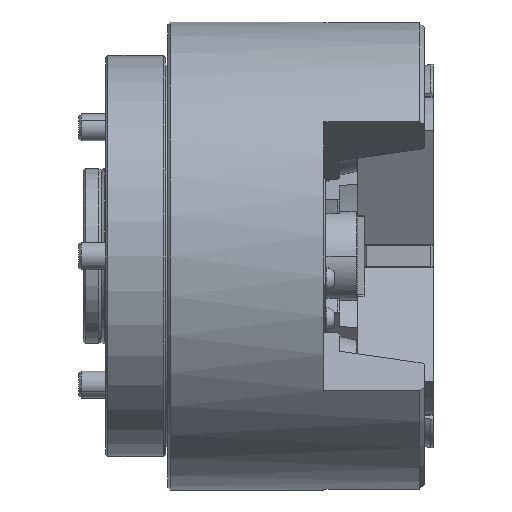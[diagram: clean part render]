
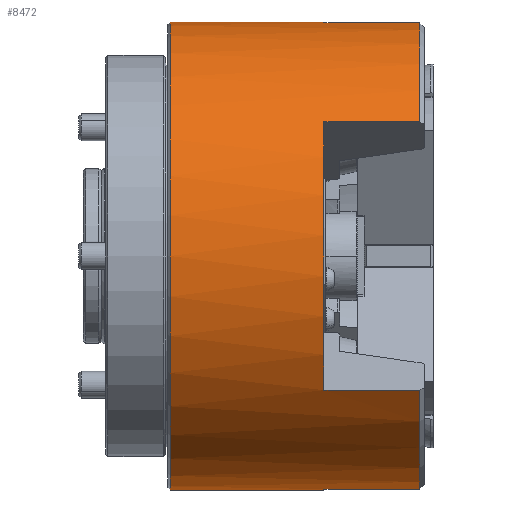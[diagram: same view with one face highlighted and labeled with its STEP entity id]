
A CAD part, front view. The second image highlights one B-rep face of the part: STEP entity #8472.
In plain terms, the highlighted cylindrical face has radius 105 mm (diameter 210 mm), a partial arc.
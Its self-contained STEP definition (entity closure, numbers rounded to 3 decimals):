
#387 = VERTEX_POINT ( 'NONE', #2884 ) ;
#965 = CARTESIAN_POINT ( 'NONE',  ( -4., 0., -105. ) ) ;
#1343 = VERTEX_POINT ( 'NONE', #16149 ) ;
#1912 = EDGE_CURVE ( 'NONE', #33724, #1343, #3603, .T. ) ;
#2174 = ORIENTED_EDGE ( 'NONE', *, *, #8078, .T. ) ;
#2516 = DIRECTION ( 'NONE',  ( 1., 0., 0. ) ) ;
#2884 = CARTESIAN_POINT ( 'NONE',  ( 65., -9.151, 104.6 ) ) ;
#2900 = EDGE_CURVE ( 'NONE', #387, #11866, #10254, .T. ) ;
#3133 = VECTOR ( 'NONE', #32689, 1000. ) ;
#3240 = VERTEX_POINT ( 'NONE', #23507 ) ;
#3334 = DIRECTION ( 'NONE',  ( 1., 0., 0. ) ) ;
#3382 = CARTESIAN_POINT ( 'NONE',  ( 65., 0., 0. ) ) ;
#3504 = CIRCLE ( 'NONE', #8292, 105. ) ;
#3603 = LINE ( 'NONE', #8376, #31266 ) ;
#3921 = ORIENTED_EDGE ( 'NONE', *, *, #29209, .F. ) ;
#5064 = EDGE_CURVE ( 'NONE', #19445, #16781, #32026, .T. ) ;
#5088 = EDGE_CURVE ( 'NONE', #11866, #1343, #3504, .T. ) ;
#5358 = CARTESIAN_POINT ( 'NONE',  ( 108., 0., 0. ) ) ;
#6008 = CIRCLE ( 'NONE', #24092, 105. ) ;
#6048 = DIRECTION ( 'NONE',  ( 0., -0.866, 0.5 ) ) ;
#6186 = VERTEX_POINT ( 'NONE', #965 ) ;
#6497 = EDGE_CURVE ( 'NONE', #28873, #22387, #28602, .T. ) ;
#6839 = CARTESIAN_POINT ( 'NONE',  ( 108., 0., 0. ) ) ;
#6934 = EDGE_LOOP ( 'NONE', ( #30149, #18443, #2174, #3921, #24184, #12538, #8845, #16233, #34164, #27891, #31095, #15811 ) ) ;
#7135 = DIRECTION ( 'NONE',  ( 1., 0., 0. ) ) ;
#7957 = AXIS2_PLACEMENT_3D ( 'NONE', #19351, #3334, #22064 ) ;
#8040 = DIRECTION ( 'NONE',  ( 0., 0., -1. ) ) ;
#8078 = EDGE_CURVE ( 'NONE', #6186, #3240, #33209, .T. ) ;
#8265 = VERTEX_POINT ( 'NONE', #28235 ) ;
#8292 = AXIS2_PLACEMENT_3D ( 'NONE', #5358, #24098, #8040 ) ;
#8376 = CARTESIAN_POINT ( 'NONE',  ( 65., -86.011, 60.226 ) ) ;
#8472 = ADVANCED_FACE ( 'NONE', ( #31930 ), #17622, .T. ) ;
#8708 = EDGE_CURVE ( 'NONE', #8265, #22387, #12624, .T. ) ;
#8845 = ORIENTED_EDGE ( 'NONE', *, *, #19150, .F. ) ;
#9286 = CARTESIAN_POINT ( 'NONE',  ( 65., -86.011, -60.226 ) ) ;
#9554 = DIRECTION ( 'NONE',  ( 0., 0., -1. ) ) ;
#10254 = LINE ( 'NONE', #24584, #3133 ) ;
#10361 = DIRECTION ( 'NONE',  ( 1., 0., 0. ) ) ;
#10503 = AXIS2_PLACEMENT_3D ( 'NONE', #3382, #22123, #6048 ) ;
#10603 = AXIS2_PLACEMENT_3D ( 'NONE', #6839, #25613, #9554 ) ;
#10634 = VECTOR ( 'NONE', #21287, 1000. ) ;
#10841 = DIRECTION ( 'NONE',  ( 1., 0., 0. ) ) ;
#11866 = VERTEX_POINT ( 'NONE', #20609 ) ;
#12426 = CARTESIAN_POINT ( 'NONE',  ( 108., -9.151, -104.6 ) ) ;
#12538 = ORIENTED_EDGE ( 'NONE', *, *, #8708, .F. ) ;
#12624 = CIRCLE ( 'NONE', #10603, 105. ) ;
#12655 = VECTOR ( 'NONE', #2516, 1000. ) ;
#13052 = EDGE_CURVE ( 'NONE', #19445, #6186, #25019, .T. ) ;
#13329 = VECTOR ( 'NONE', #10841, 1000. ) ;
#13566 = DIRECTION ( 'NONE',  ( 1., 0., 0. ) ) ;
#15147 = VECTOR ( 'NONE', #26852, 1000. ) ;
#15314 = CIRCLE ( 'NONE', #10503, 105. ) ;
#15811 = ORIENTED_EDGE ( 'NONE', *, *, #27443, .F. ) ;
#16149 = CARTESIAN_POINT ( 'NONE',  ( 108., -86.011, 60.226 ) ) ;
#16233 = ORIENTED_EDGE ( 'NONE', *, *, #22383, .F. ) ;
#16781 = VERTEX_POINT ( 'NONE', #24499 ) ;
#17622 = CYLINDRICAL_SURFACE ( 'NONE', #22041, 105. ) ;
#18443 = ORIENTED_EDGE ( 'NONE', *, *, #13052, .T. ) ;
#18544 = CARTESIAN_POINT ( 'NONE',  ( 63.843, 0., -105. ) ) ;
#18713 = DIRECTION ( 'NONE',  ( 0., 0., -1. ) ) ;
#19150 = EDGE_CURVE ( 'NONE', #20317, #8265, #25897, .T. ) ;
#19351 = CARTESIAN_POINT ( 'NONE',  ( -4., 0., 0. ) ) ;
#19445 = VERTEX_POINT ( 'NONE', #34657 ) ;
#20317 = VERTEX_POINT ( 'NONE', #9286 ) ;
#20609 = CARTESIAN_POINT ( 'NONE',  ( 108., -9.151, 104.6 ) ) ;
#21287 = DIRECTION ( 'NONE',  ( 1., 0., 0. ) ) ;
#21428 = CARTESIAN_POINT ( 'NONE',  ( 65., -9.151, -104.6 ) ) ;
#22041 = AXIS2_PLACEMENT_3D ( 'NONE', #29535, #13566, #18713 ) ;
#22064 = DIRECTION ( 'NONE',  ( 0., 0., -1. ) ) ;
#22123 = DIRECTION ( 'NONE',  ( 1., 0., 0. ) ) ;
#22383 = EDGE_CURVE ( 'NONE', #33724, #20317, #6008, .T. ) ;
#22387 = VERTEX_POINT ( 'NONE', #12426 ) ;
#23193 = CARTESIAN_POINT ( 'NONE',  ( 65., 0., 0. ) ) ;
#23507 = CARTESIAN_POINT ( 'NONE',  ( 65., 0., -105. ) ) ;
#23975 = CARTESIAN_POINT ( 'NONE',  ( 63.843, 0., 105. ) ) ;
#24092 = AXIS2_PLACEMENT_3D ( 'NONE', #23193, #7135, #25892 ) ;
#24098 = DIRECTION ( 'NONE',  ( 1., 0., 0. ) ) ;
#24184 = ORIENTED_EDGE ( 'NONE', *, *, #6497, .T. ) ;
#24499 = CARTESIAN_POINT ( 'NONE',  ( 65., 0., 105. ) ) ;
#24584 = CARTESIAN_POINT ( 'NONE',  ( 65., -9.151, 104.6 ) ) ;
#25019 = CIRCLE ( 'NONE', #7957, 105. ) ;
#25613 = DIRECTION ( 'NONE',  ( 1., 0., 0. ) ) ;
#25892 = DIRECTION ( 'NONE',  ( 0., 0., -1. ) ) ;
#25897 = LINE ( 'NONE', #31612, #13329 ) ;
#25922 = CARTESIAN_POINT ( 'NONE',  ( 65., -86.011, 60.226 ) ) ;
#26423 = CARTESIAN_POINT ( 'NONE',  ( 65., 0., 0. ) ) ;
#26852 = DIRECTION ( 'NONE',  ( 1., 0., 0. ) ) ;
#27443 = EDGE_CURVE ( 'NONE', #16781, #387, #15314, .T. ) ;
#27891 = ORIENTED_EDGE ( 'NONE', *, *, #5088, .F. ) ;
#28235 = CARTESIAN_POINT ( 'NONE',  ( 108., -86.011, -60.226 ) ) ;
#28602 = LINE ( 'NONE', #21428, #15147 ) ;
#28659 = CIRCLE ( 'NONE', #28755, 105. ) ;
#28755 = AXIS2_PLACEMENT_3D ( 'NONE', #26423, #10361, #29148 ) ;
#28873 = VERTEX_POINT ( 'NONE', #30438 ) ;
#29148 = DIRECTION ( 'NONE',  ( 0., 0.866, 0.5 ) ) ;
#29209 = EDGE_CURVE ( 'NONE', #28873, #3240, #28659, .T. ) ;
#29535 = CARTESIAN_POINT ( 'NONE',  ( 63.843, 0., 0. ) ) ;
#30149 = ORIENTED_EDGE ( 'NONE', *, *, #5064, .F. ) ;
#30438 = CARTESIAN_POINT ( 'NONE',  ( 65., -9.151, -104.6 ) ) ;
#31095 = ORIENTED_EDGE ( 'NONE', *, *, #2900, .F. ) ;
#31266 = VECTOR ( 'NONE', #32411, 1000. ) ;
#31612 = CARTESIAN_POINT ( 'NONE',  ( 65., -86.011, -60.226 ) ) ;
#31930 = FACE_OUTER_BOUND ( 'NONE', #6934, .T. ) ;
#32026 = LINE ( 'NONE', #23975, #10634 ) ;
#32411 = DIRECTION ( 'NONE',  ( 1., 0., 0. ) ) ;
#32689 = DIRECTION ( 'NONE',  ( 1., 0., 0. ) ) ;
#33209 = LINE ( 'NONE', #18544, #12655 ) ;
#33724 = VERTEX_POINT ( 'NONE', #25922 ) ;
#34164 = ORIENTED_EDGE ( 'NONE', *, *, #1912, .T. ) ;
#34657 = CARTESIAN_POINT ( 'NONE',  ( -4., 0., 105. ) ) ;
